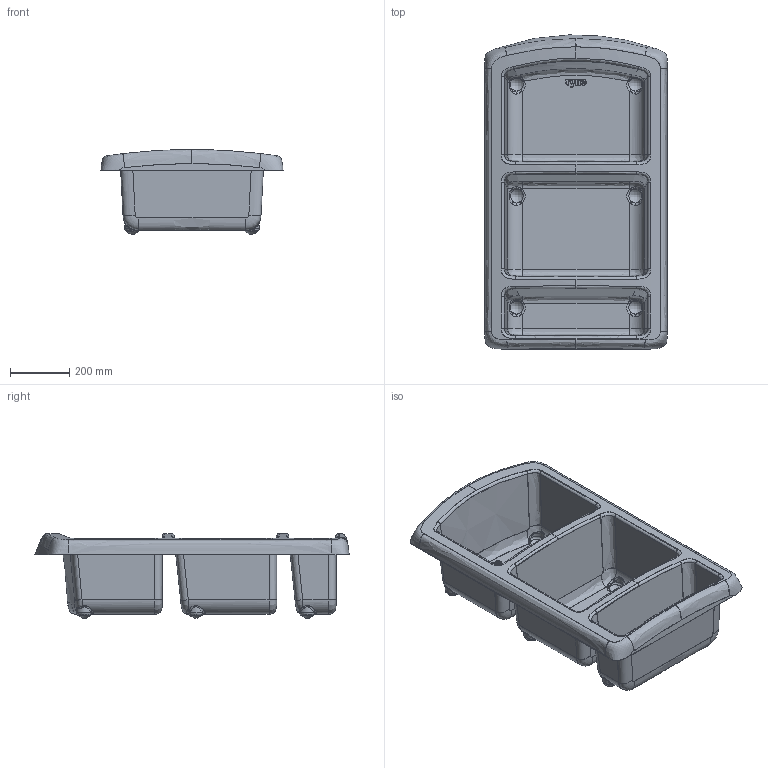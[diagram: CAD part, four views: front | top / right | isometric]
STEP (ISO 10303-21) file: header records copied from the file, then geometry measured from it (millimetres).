
FILE_DESCRIPTION (( 'STEP AP203' ), '1' );
FILE_NAME ('Wall mounted wardrobe.STEP', '2024-09-10T10:37:33', ( '' ), ( '' ), 'SwSTEP 2.0', 'SolidWorks 2023', '' );
FILE_SCHEMA (( 'CONFIG_CONTROL_DESIGN' ));
Products named in the file (1): Wall mounted wardrobe
Bounding box: 612.84 x 1057.21 x 285.48 mm (x, y, z)
Volume: 1733371.3 mm3; surface area: 3506426.2 mm2
Topology: 1 solids, 1 shells, 501 faces, 1249 edges, 760 vertices
Faces by surface type: bspline 358, plane 77, cylinder 56, torus 8, cone 2
Entity records: 173270 total; most frequent: CARTESIAN_POINT 164457, ORIENTED_EDGE 2498, EDGE_CURVE 1249, B_SPLINE_CURVE_WITH_KNOTS 923, VERTEX_POINT 760, DIRECTION 661, EDGE_LOOP 511, FACE_OUTER_BOUND 501
